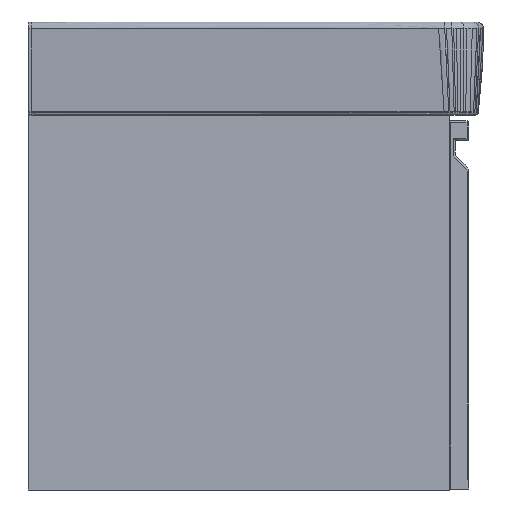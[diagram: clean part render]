
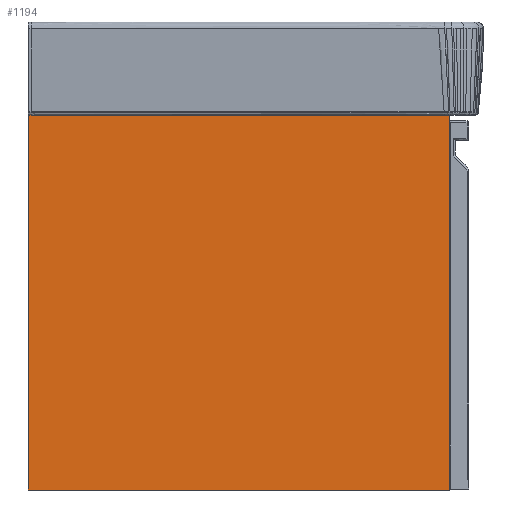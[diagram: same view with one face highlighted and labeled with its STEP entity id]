
A CAD part, left-side view. The second image highlights one B-rep face of the part: STEP entity #1194.
In plain terms, the highlighted planar face has unit normal (-1, 0, 0).
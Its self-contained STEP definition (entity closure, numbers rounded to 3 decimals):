
#1194=ADVANCED_FACE('',(#2565),#21007,.T.);
#2565=FACE_OUTER_BOUND('',#3946,.T.);
#3946=EDGE_LOOP('',(#8763,#8764,#8765,#8766));
#8763=ORIENTED_EDGE('',*,*,#13516,.F.);
#8764=ORIENTED_EDGE('',*,*,#13517,.T.);
#8765=ORIENTED_EDGE('',*,*,#13518,.T.);
#8766=ORIENTED_EDGE('',*,*,#13519,.T.);
#13516=EDGE_CURVE('',#19521,#19518,#17314,.T.);
#13517=EDGE_CURVE('',#19521,#19522,#17315,.T.);
#13518=EDGE_CURVE('',#19522,#19523,#17316,.T.);
#13519=EDGE_CURVE('',#19523,#19518,#17317,.T.);
#17314=B_SPLINE_CURVE_WITH_KNOTS('',1,(#133957,#133958),.UNSPECIFIED.,.F.,
 .F.,(2,2),(0.,430.),.UNSPECIFIED.);
#17315=B_SPLINE_CURVE_WITH_KNOTS('',1,(#133959,#133960),.UNSPECIFIED.,.F.,
 .F.,(2,2),(-387.,0.),.UNSPECIFIED.);
#17316=B_SPLINE_CURVE_WITH_KNOTS('',1,(#133961,#133962),.UNSPECIFIED.,.F.,
 .F.,(2,2),(-430.,0.),.UNSPECIFIED.);
#17317=B_SPLINE_CURVE_WITH_KNOTS('',1,(#133963,#133964),.UNSPECIFIED.,.F.,
 .F.,(2,2),(0.,387.),.UNSPECIFIED.);
#19518=VERTEX_POINT('',#133941);
#19521=VERTEX_POINT('',#133944);
#19522=VERTEX_POINT('',#133945);
#19523=VERTEX_POINT('',#133946);
#21007=PLANE('',#21909);
#21909=AXIS2_PLACEMENT_3D('',#133935,#22358,$);
#22358=DIRECTION('',(-1.,0.,0.));
#133935=CARTESIAN_POINT('',(3731.937,-4489.169,-1904.111));
#133941=CARTESIAN_POINT('',(3731.937,-4446.049,-1478.291));
#133944=CARTESIAN_POINT('',(3731.937,-4016.049,-1478.291));
#133945=CARTESIAN_POINT('',(3731.937,-4016.049,-1865.291));
#133946=CARTESIAN_POINT('',(3731.937,-4446.049,-1865.291));
#133957=CARTESIAN_POINT('',(3731.937,-4016.049,-1478.291));
#133958=CARTESIAN_POINT('',(3731.937,-4446.049,-1478.291));
#133959=CARTESIAN_POINT('',(3731.937,-4016.049,-1478.291));
#133960=CARTESIAN_POINT('',(3731.937,-4016.049,-1865.291));
#133961=CARTESIAN_POINT('',(3731.937,-4016.049,-1865.291));
#133962=CARTESIAN_POINT('',(3731.937,-4446.049,-1865.291));
#133963=CARTESIAN_POINT('',(3731.937,-4446.049,-1865.291));
#133964=CARTESIAN_POINT('',(3731.937,-4446.049,-1478.291));
